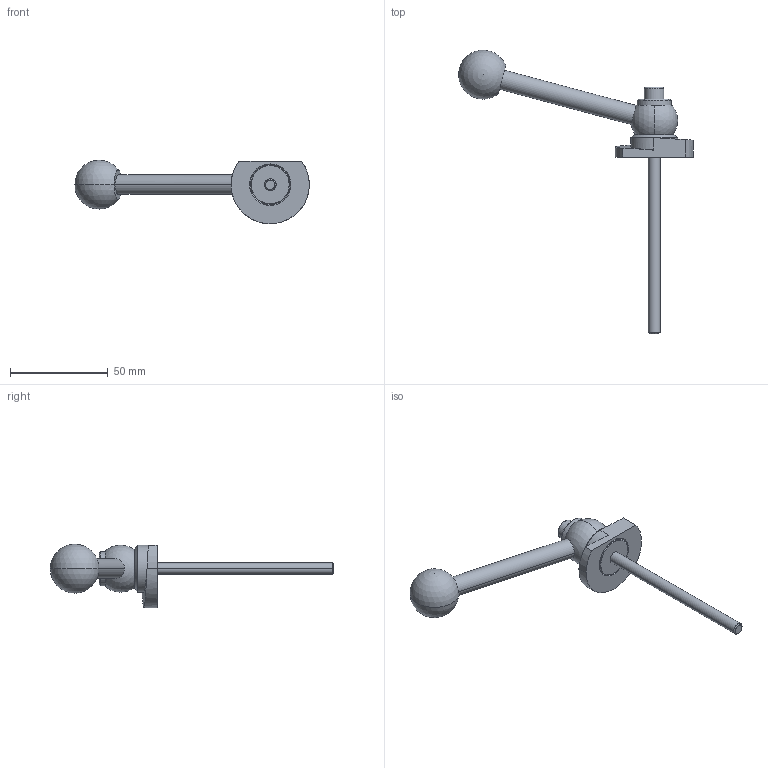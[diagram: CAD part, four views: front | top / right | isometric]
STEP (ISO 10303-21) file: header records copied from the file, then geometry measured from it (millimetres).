
FILE_DESCRIPTION (( 'STEP AP214' ), '1' );
FILE_NAME ('918.1-40-KVS-L-90.step', '2024-05-15T13:00:18', ( '' ), ( '' ), 'SwSTEP 2.0', 'SolidWorks 2022', '' );
FILE_SCHEMA (( 'AUTOMOTIVE_DESIGN' ));
Length unit declared in the file: millimetre
Products named in the file (1): 918.1-40-KVS-L-90
Bounding box: 119.95 x 144.99 x 32.5 mm (x, y, z)
Volume: 32294.9 mm3; surface area: 12532.5 mm2
Topology: 1 solids, 1 shells, 62 faces, 141 edges, 89 vertices
Faces by surface type: plane 20, cylinder 19, cone 14, sphere 4, bspline 3, torus 2
Entity records: 2003 total; most frequent: CARTESIAN_POINT 614, DIRECTION 304, ORIENTED_EDGE 262, EDGE_CURVE 131, AXIS2_PLACEMENT_3D 125, VERTEX_POINT 83, EDGE_LOOP 74, CIRCLE 65
